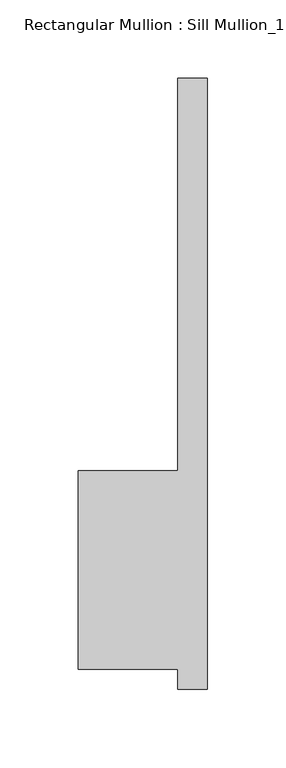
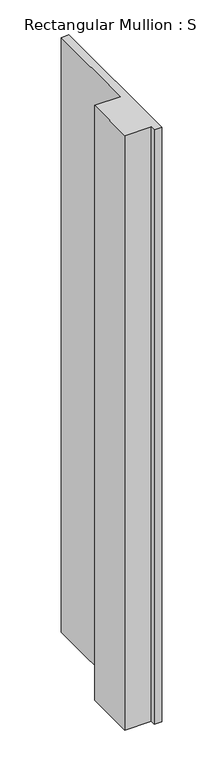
"""IFC4 building model written with IfcOpenShell, lengths in millimetres: member geometry."""

from ifc_helpers import new_model, si_unit, frame, origin, place, context, project, spatial, polyline, outline, extrude, source, transform, mapped, element, save


def member_24cd7b2e(model_context):
    return source(origin(), model_context, "Body", "SweptSolid", [
        extrude(outline(polyline([(-82.55, 50.8), (-19.05, 50.8), (-19.05, 301.625), (0.0, 301.625), (0.0, -88.9), (-19.05, -88.9), (-19.05, -76.2), (-82.55, -76.2), (-82.55, 50.8)])), frame((0.0, 0.0, -1524.9071429), z_axis=(0.0, 0.0, 1.0), x_axis=(1.0, 0.0, 0.0)), (0.0, 0.0, 1.0), 1524.9071429),
    ])


if __name__ == "__main__":
    model = new_model("IFC4")
    model_context = context("Model", 3, world=origin())
    ifc_project = project(units=[si_unit("LENGTHUNIT", "METRE", prefix="MILLI")], contexts=[model_context])
    site = spatial("IfcSite", under=ifc_project)
    building = spatial("IfcBuilding", under=site)
    placement = place(None, origin())
    member_shape = member_24cd7b2e(model_context)
    element("IfcMember", 1, ObjectType="Rectangular Mullion : Sill Mullion_15\" thick wall", at=placement, inside=building, context=model_context, shape_type="MappedRepresentation", body=[
        mapped(member_shape, transform((0.0, 0.0, 0.0), x_axis=(1.0, 0.0, 0.0), y_axis=(0.0, 1.0, 0.0), z_axis=(0.0, 0.0, 1.0))),
    ])
    save(model, "model.ifc")
